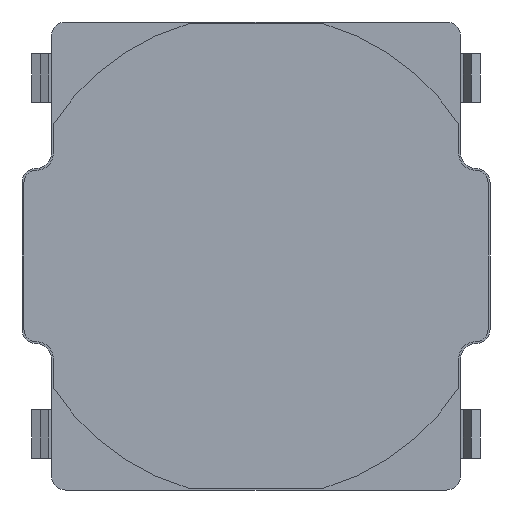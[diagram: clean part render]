
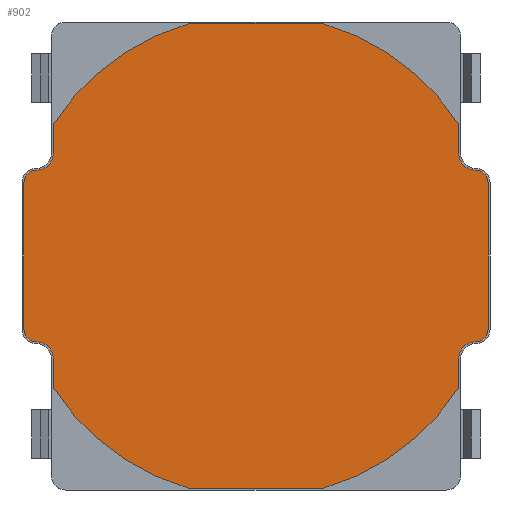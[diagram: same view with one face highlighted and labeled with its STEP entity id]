
A CAD part, front view. The second image highlights one B-rep face of the part: STEP entity #902.
In plain terms, the highlighted planar face has unit normal (0, -1, 0).
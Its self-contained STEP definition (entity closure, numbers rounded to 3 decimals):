
#315=CARTESIAN_POINT('',(0.,-0.05,0.));
#316=DIRECTION('',(0.,1.,0.));
#317=DIRECTION('',(0.839,0.,-0.545));
#318=AXIS2_PLACEMENT_3D('',#315,#316,#317);
#323=DIRECTION('',(-1.,0.,0.));
#324=VECTOR('',#323,1.394);
#325=CARTESIAN_POINT('',(0.697,-0.05,-2.38));
#326=LINE('',#325,#324);
#330=CARTESIAN_POINT('',(0.,-0.05,0.));
#331=DIRECTION('',(0.,1.,0.));
#332=DIRECTION('',(-0.281,0.,-0.96));
#333=AXIS2_PLACEMENT_3D('',#330,#331,#332);
#338=DIRECTION('',(0.,0.,1.));
#339=VECTOR('',#338,0.301);
#340=CARTESIAN_POINT('',(-2.08,-0.05,-1.351));
#341=LINE('',#340,#339);
#345=CARTESIAN_POINT('',(-2.25,-0.05,-1.05));
#346=DIRECTION('',(0.,-1.,0.));
#347=DIRECTION('',(1.,0.,0.));
#348=AXIS2_PLACEMENT_3D('',#345,#346,#347);
#353=CARTESIAN_POINT('',(-2.25,-0.05,-0.75));
#354=DIRECTION('',(0.,1.,0.));
#355=DIRECTION('',(0.,0.,-1.));
#356=AXIS2_PLACEMENT_3D('',#353,#354,#355);
#361=DIRECTION('',(0.,0.,1.));
#362=VECTOR('',#361,1.5);
#363=CARTESIAN_POINT('',(-2.38,-0.05,-0.75));
#364=LINE('',#363,#362);
#368=CARTESIAN_POINT('',(-2.25,-0.05,0.75));
#369=DIRECTION('',(0.,1.,0.));
#370=DIRECTION('',(-1.,0.,0.));
#371=AXIS2_PLACEMENT_3D('',#368,#369,#370);
#376=CARTESIAN_POINT('',(-2.25,-0.05,1.05));
#377=DIRECTION('',(0.,-1.,0.));
#378=DIRECTION('',(0.,0.,-1.));
#379=AXIS2_PLACEMENT_3D('',#376,#377,#378);
#384=DIRECTION('',(0.,0.,1.));
#385=VECTOR('',#384,0.301);
#386=CARTESIAN_POINT('',(-2.08,-0.05,1.05));
#387=LINE('',#386,#385);
#391=CARTESIAN_POINT('',(0.,-0.05,0.));
#392=DIRECTION('',(0.,1.,0.));
#393=DIRECTION('',(-0.839,0.,0.545));
#394=AXIS2_PLACEMENT_3D('',#391,#392,#393);
#399=DIRECTION('',(1.,0.,0.));
#400=VECTOR('',#399,1.394);
#401=CARTESIAN_POINT('',(-0.697,-0.05,2.38));
#402=LINE('',#401,#400);
#406=CARTESIAN_POINT('',(0.,-0.05,0.));
#407=DIRECTION('',(0.,1.,0.));
#408=DIRECTION('',(0.281,0.,0.96));
#409=AXIS2_PLACEMENT_3D('',#406,#407,#408);
#414=DIRECTION('',(0.,0.,-1.));
#415=VECTOR('',#414,0.301);
#416=CARTESIAN_POINT('',(2.08,-0.05,1.351));
#417=LINE('',#416,#415);
#421=CARTESIAN_POINT('',(2.25,-0.05,1.05));
#422=DIRECTION('',(0.,-1.,0.));
#423=DIRECTION('',(-1.,0.,0.));
#424=AXIS2_PLACEMENT_3D('',#421,#422,#423);
#429=CARTESIAN_POINT('',(2.25,-0.05,0.75));
#430=DIRECTION('',(0.,1.,0.));
#431=DIRECTION('',(0.,0.,1.));
#432=AXIS2_PLACEMENT_3D('',#429,#430,#431);
#437=DIRECTION('',(0.,0.,-1.));
#438=VECTOR('',#437,1.5);
#439=CARTESIAN_POINT('',(2.38,-0.05,0.75));
#440=LINE('',#439,#438);
#444=CARTESIAN_POINT('',(2.25,-0.05,-0.75));
#445=DIRECTION('',(0.,1.,0.));
#446=DIRECTION('',(1.,0.,0.));
#447=AXIS2_PLACEMENT_3D('',#444,#445,#446);
#452=CARTESIAN_POINT('',(2.25,-0.05,-1.05));
#453=DIRECTION('',(0.,-1.,0.));
#454=DIRECTION('',(0.,0.,1.));
#455=AXIS2_PLACEMENT_3D('',#452,#453,#454);
#460=DIRECTION('',(0.,0.,-1.));
#461=VECTOR('',#460,0.301);
#462=CARTESIAN_POINT('',(2.08,-0.05,-1.05));
#463=LINE('',#462,#461);
#507=CARTESIAN_POINT('',(2.08,-0.05,-1.351));
#508=CARTESIAN_POINT('',(0.697,-0.05,-2.38));
#509=VERTEX_POINT('',#507);
#510=VERTEX_POINT('',#508);
#511=CARTESIAN_POINT('',(-0.697,-0.05,-2.38));
#512=VERTEX_POINT('',#511);
#513=CARTESIAN_POINT('',(-2.08,-0.05,-1.351));
#514=VERTEX_POINT('',#513);
#515=CARTESIAN_POINT('',(-2.08,-0.05,-1.05));
#516=VERTEX_POINT('',#515);
#517=CARTESIAN_POINT('',(-2.25,-0.05,-0.88));
#518=VERTEX_POINT('',#517);
#519=CARTESIAN_POINT('',(-2.38,-0.05,-0.75));
#520=VERTEX_POINT('',#519);
#521=CARTESIAN_POINT('',(-2.38,-0.05,0.75));
#522=VERTEX_POINT('',#521);
#523=CARTESIAN_POINT('',(-2.25,-0.05,0.88));
#524=VERTEX_POINT('',#523);
#525=CARTESIAN_POINT('',(-2.08,-0.05,1.05));
#526=VERTEX_POINT('',#525);
#527=CARTESIAN_POINT('',(-2.08,-0.05,1.351));
#528=VERTEX_POINT('',#527);
#529=CARTESIAN_POINT('',(-0.697,-0.05,2.38));
#530=VERTEX_POINT('',#529);
#531=CARTESIAN_POINT('',(0.697,-0.05,2.38));
#532=VERTEX_POINT('',#531);
#533=CARTESIAN_POINT('',(2.08,-0.05,1.351));
#534=VERTEX_POINT('',#533);
#535=CARTESIAN_POINT('',(2.08,-0.05,1.05));
#536=VERTEX_POINT('',#535);
#537=CARTESIAN_POINT('',(2.25,-0.05,0.88));
#538=VERTEX_POINT('',#537);
#539=CARTESIAN_POINT('',(2.38,-0.05,0.75));
#540=VERTEX_POINT('',#539);
#541=CARTESIAN_POINT('',(2.38,-0.05,-0.75));
#542=VERTEX_POINT('',#541);
#543=CARTESIAN_POINT('',(2.25,-0.05,-0.88));
#544=VERTEX_POINT('',#543);
#545=CARTESIAN_POINT('',(2.08,-0.05,-1.05));
#546=VERTEX_POINT('',#545);
#875=CARTESIAN_POINT('',(0.,-0.05,0.));
#876=DIRECTION('',(0.,1.,0.));
#877=DIRECTION('',(0.,0.,-1.));
#878=AXIS2_PLACEMENT_3D('',#875,#876,#877);
#879=PLANE('',#878);
#880=ORIENTED_EDGE('',*,*,#603,.T.);
#881=ORIENTED_EDGE('',*,*,#618,.T.);
#882=ORIENTED_EDGE('',*,*,#632,.T.);
#883=ORIENTED_EDGE('',*,*,#646,.T.);
#884=ORIENTED_EDGE('',*,*,#660,.T.);
#885=ORIENTED_EDGE('',*,*,#674,.T.);
#886=ORIENTED_EDGE('',*,*,#688,.T.);
#887=ORIENTED_EDGE('',*,*,#702,.T.);
#888=ORIENTED_EDGE('',*,*,#716,.T.);
#889=ORIENTED_EDGE('',*,*,#730,.T.);
#890=ORIENTED_EDGE('',*,*,#744,.T.);
#891=ORIENTED_EDGE('',*,*,#758,.T.);
#892=ORIENTED_EDGE('',*,*,#772,.T.);
#893=ORIENTED_EDGE('',*,*,#786,.T.);
#894=ORIENTED_EDGE('',*,*,#800,.T.);
#895=ORIENTED_EDGE('',*,*,#814,.T.);
#896=ORIENTED_EDGE('',*,*,#828,.T.);
#897=ORIENTED_EDGE('',*,*,#842,.T.);
#898=ORIENTED_EDGE('',*,*,#856,.T.);
#899=ORIENTED_EDGE('',*,*,#869,.T.);
#900=EDGE_LOOP('',(#880,#881,#882,#883,#884,#885,#886,#887,#888,#889,#890,#891,
#892,#893,#894,#895,#896,#897,#898,#899));
#901=FACE_OUTER_BOUND('',#900,.F.);
#319=CIRCLE('',#318,2.48);
#334=CIRCLE('',#333,2.48);
#349=CIRCLE('',#348,0.17);
#357=CIRCLE('',#356,0.13);
#372=CIRCLE('',#371,0.13);
#380=CIRCLE('',#379,0.17);
#395=CIRCLE('',#394,2.48);
#410=CIRCLE('',#409,2.48);
#425=CIRCLE('',#424,0.17);
#433=CIRCLE('',#432,0.13);
#448=CIRCLE('',#447,0.13);
#456=CIRCLE('',#455,0.17);
#603=EDGE_CURVE('',#509,#510,#319,.T.);
#618=EDGE_CURVE('',#510,#512,#326,.T.);
#632=EDGE_CURVE('',#512,#514,#334,.T.);
#646=EDGE_CURVE('',#514,#516,#341,.T.);
#660=EDGE_CURVE('',#516,#518,#349,.T.);
#674=EDGE_CURVE('',#518,#520,#357,.T.);
#688=EDGE_CURVE('',#520,#522,#364,.T.);
#702=EDGE_CURVE('',#522,#524,#372,.T.);
#716=EDGE_CURVE('',#524,#526,#380,.T.);
#730=EDGE_CURVE('',#526,#528,#387,.T.);
#744=EDGE_CURVE('',#528,#530,#395,.T.);
#758=EDGE_CURVE('',#530,#532,#402,.T.);
#772=EDGE_CURVE('',#532,#534,#410,.T.);
#786=EDGE_CURVE('',#534,#536,#417,.T.);
#800=EDGE_CURVE('',#536,#538,#425,.T.);
#814=EDGE_CURVE('',#538,#540,#433,.T.);
#828=EDGE_CURVE('',#540,#542,#440,.T.);
#842=EDGE_CURVE('',#542,#544,#448,.T.);
#856=EDGE_CURVE('',#544,#546,#456,.T.);
#869=EDGE_CURVE('',#546,#509,#463,.T.);
#902=ADVANCED_FACE('',(#901),#879,.F.);
